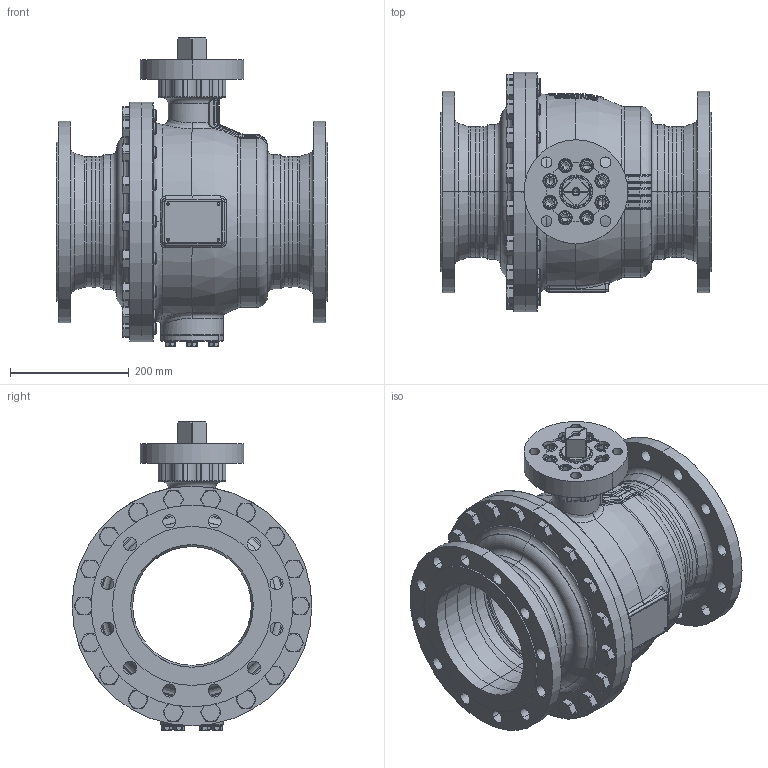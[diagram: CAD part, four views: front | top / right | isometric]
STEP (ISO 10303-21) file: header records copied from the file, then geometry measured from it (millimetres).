
FILE_DESCRIPTION((''),'2;1');
FILE_NAME('KHI-F_200_PN016-F14-4_SW0001','2026-02-05T12:45:33',('fischerkl'),('KLINGER'),'CREO PARAMETRIC BY PTC INC, 2023014','CREO PARAMETRIC BY PTC INC, 2023014','');
FILE_SCHEMA(('CONFIG_CONTROL_DESIGN'));
Products named in the file (1): KHI-F_200_PN016-F14-4_SW0001
Bounding box: 457 x 404 x 519.2 mm (x, y, z)
Volume: 12578127 mm3; surface area: 2239705.4 mm2
Topology: 1 solids, 4 shells, 3809 faces, 9754 edges, 6079 vertices
Faces by surface type: plane 2302, cylinder 718, cone 364, torus 287, bspline 108, sphere 30
Entity records: 148563 total; most frequent: CARTESIAN_POINT 58297, ORIENTED_EDGE 19456, DIRECTION 17943, EDGE_CURVE 9728, AXIS2_PLACEMENT_3D 6371, VERTEX_POINT 6079, VECTOR 5201, LINE 5201
